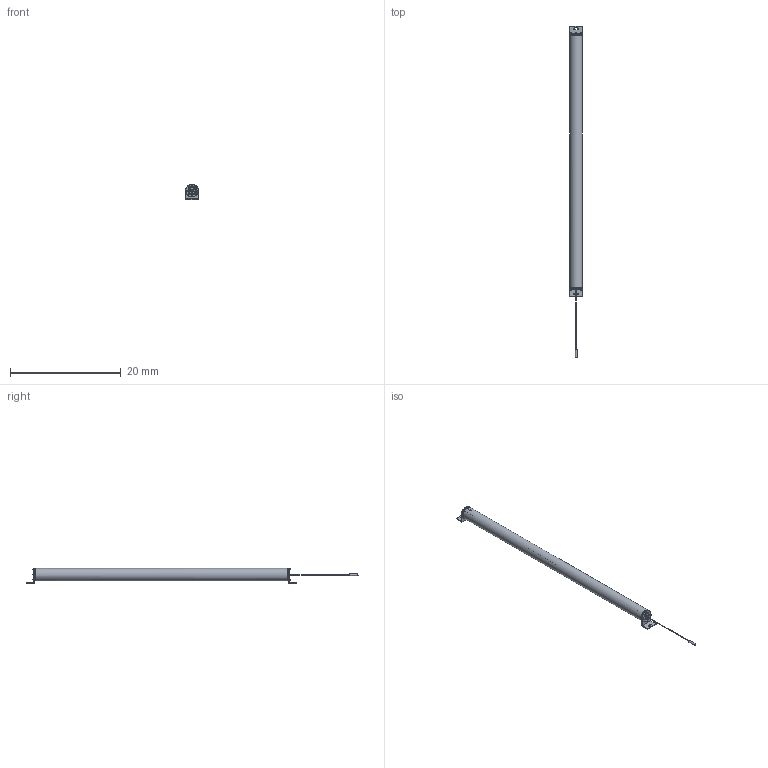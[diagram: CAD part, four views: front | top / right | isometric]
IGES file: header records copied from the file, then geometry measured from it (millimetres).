
Start section:  Autodesk DirectConnect version 7.0.27.0 ---- IGES version 5.3
Global section: file name: C:\ACADFILES\SS_PYLONS\CUSTOMER_FILES\SS-44-PYLON_3D_SMB_PT.iges; native system: Autodesk DirectConnect 7.0.27.0; preprocessor: 7.0.27.0; author: ENGINEERMAIN; organization: Unknown; date: 20150810.125331; units: millimetre
Bounding box: 2.26 x 60.01 x 2.75 mm (x, y, z)
Surface area: 1346.3 mm2 (no closed solid volume)
Topology: 0 solids, 0 shells, 772 faces, 3944 edges, 3944 vertices
Faces by surface type: bspline 772
